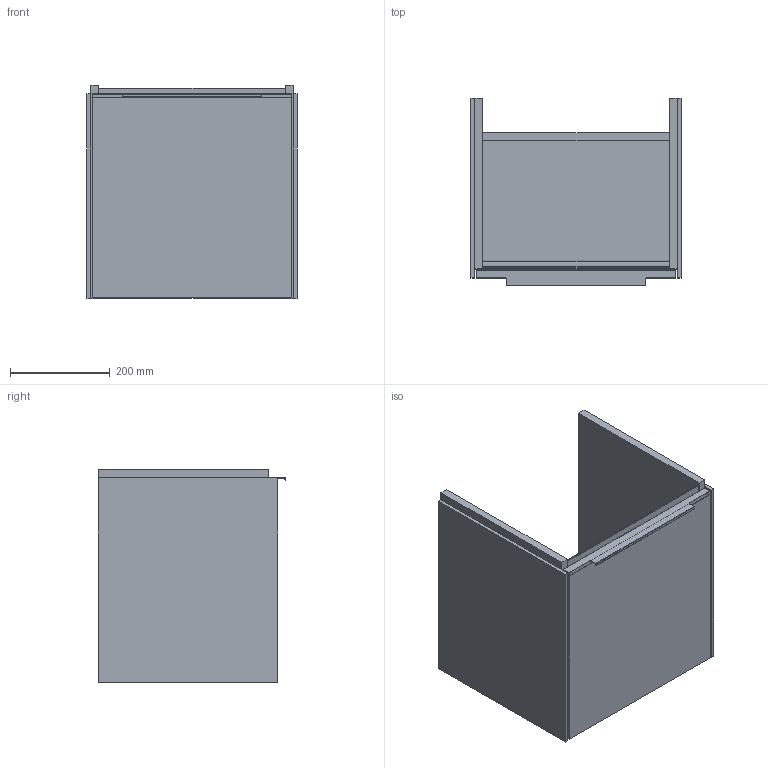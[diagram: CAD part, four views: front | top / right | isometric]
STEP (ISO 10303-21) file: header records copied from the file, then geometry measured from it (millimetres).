
FILE_DESCRIPTION(/* description */ (''),/* implementation_level */ '2;1');
FILE_NAME(/* name */ 'K:\ACAD\PERSPECT\Freisteller\V&B\Subway 3.0\WTU\ohne Beleuchtung\TK036_C5820Z_RFS.stp',/* time_stamp */ '2020-12-01T14:55:54+01:00',/* author */ ('StegeR'),/* organization */ (''),/* preprocessor_version */ 'ST-DEVELOPER v16.1',/* originating_system */ 'Autodesk Inventor 2016',/* authorisation */ '');
FILE_SCHEMA (('AUTOMOTIVE_DESIGN { 1 0 10303 214 3 1 1 }'));
Length unit declared in the file: millimetre
Products named in the file (1): TK036_C5820Z_RFS
Bounding box: 423 x 377.5 x 429 mm (x, y, z)
Volume: 12372703.7 mm3; surface area: 2044499.9 mm2
Topology: 9 solids, 9 shells, 151 faces, 350 edges, 217 vertices
Faces by surface type: plane 82, cylinder 48, bspline 10, torus 6, sphere 5
Entity records: 4360 total; most frequent: CARTESIAN_POINT 875, DIRECTION 738, ORIENTED_EDGE 696, EDGE_CURVE 348, AXIS2_PLACEMENT_3D 252, LINE 234, VECTOR 234, VERTEX_POINT 217
